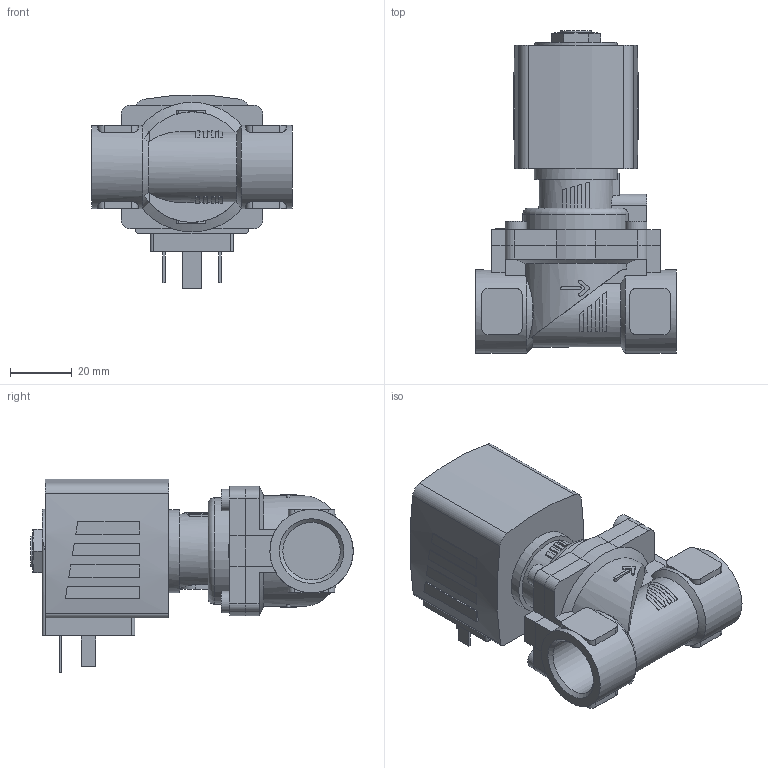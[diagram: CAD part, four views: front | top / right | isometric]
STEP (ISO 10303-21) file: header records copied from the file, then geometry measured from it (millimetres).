
FILE_DESCRIPTION(/* description */ ('STEP AP214'),/* implementation_level */ '2;1');
FILE_NAME(/* name */ '6281-318218-2_2-Way_Solenoid_Valve__Servo-assisted__General_Purpose',/* time_stamp */ '2024-05-26T22:02:20+02:00',/* author */ ('License CC BY-ND 4.0'),/* organization */ ('CADENAS'),/* preprocessor_version */ 'ST-DEVELOPER v19.3',/* originating_system */ 'PARTsolutions',/* authorisation */ ' ');
FILE_SCHEMA (('AUTOMOTIVE_DESIGN {1 0 10303 214 3 1 1}'));
Length unit declared in the file: millimetre
Products named in the file (4): 6281-318218-2/2-Way Solenoid Valve, Servo-assisted, General Purpose; 5281ev130MS2/2-Wege-Magnetventil mit Servomembran-Deckel 42 ; 6213-13G1/2MS-Gehaeuse-lang; AC10ex-6NA38-Plan-Coil
Assembly tree (3 placements, depth 2):
  6281-318218-2/2-Way Solenoid Valve, Servo-assisted, General Purpose
    5281ev130MS2/2-Wege-Magnetventil mit Servomembran-Deckel 42 
    6213-13G1/2MS-Gehaeuse-lang
    AC10ex-6NA38-Plan-Coil
Bounding box: 65 x 104.5 x 62.83 mm (x, y, z)
Volume: 139922.5 mm3; surface area: 31277.9 mm2
Topology: 3 solids, 3 shells, 341 faces, 869 edges, 568 vertices
Faces by surface type: plane 236, cylinder 91, cone 13, torus 1
Full cylindrical faces by diameter (mm): 2.013 x1, 7 x4, 9.74 x1, 18.631 x2, 27 x3
Entity records: 11600 total; most frequent: CARTESIAN_POINT 2012, DIRECTION 1730, ORIENTED_EDGE 1696, EDGE_CURVE 848, AXIS2_PLACEMENT_3D 604, VERTEX_POINT 562, LINE 522, VECTOR 522
